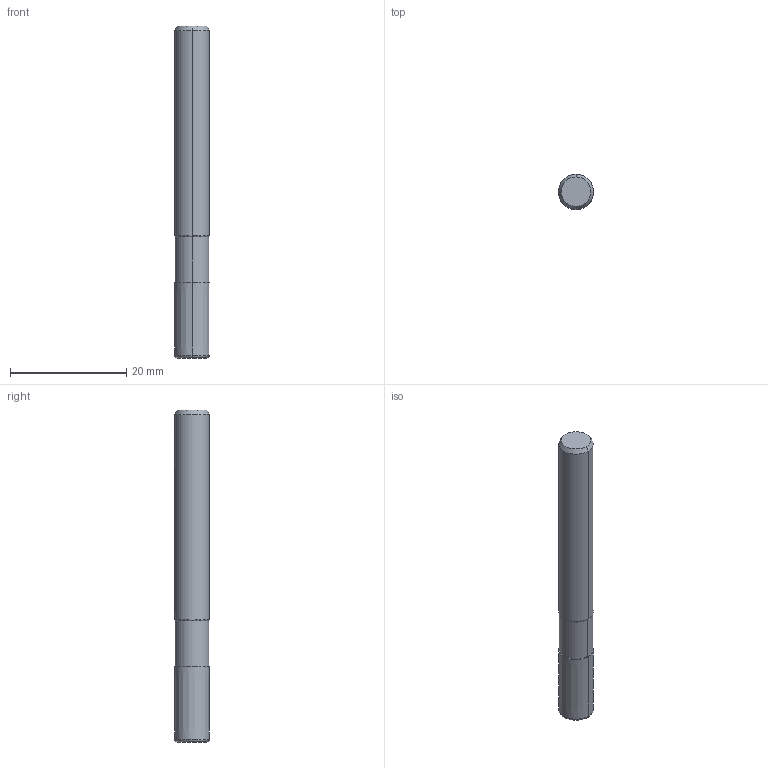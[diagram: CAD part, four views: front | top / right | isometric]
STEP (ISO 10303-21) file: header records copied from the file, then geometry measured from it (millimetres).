
FILE_DESCRIPTION(('no description'),'unknown implementation level');
FILE_NAME('solidR6dbxIw7ttNYzsIpkeRAW6LqzTw_1.STP',' ',('CIMSOURCE GmbH'),('CADClick - KiM GmbH - www.kimweb.de'),'unknown preprocess','ACIS','unknown authorization');
FILE_SCHEMA(('automotive_design'));
Length unit declared in the file: millimetre
Products named in the file (2): NOCUT; CUT
Bounding box: 6 x 6 x 57 mm (x, y, z)
Volume: 1592.5 mm3; surface area: 1411.1 mm2
Topology: 2 solids, 2 shells, 42 faces, 95 edges, 58 vertices
Faces by surface type: cylinder 16, cone 14, plane 10, torus 2
Entity records: 2528 total; most frequent: CARTESIAN_POINT 417, DIRECTION 217, STYLED_ITEM 197, PRESENTATION_STYLE_ASSIGNMENT 197, COLOUR_RGB 197, ORIENTED_EDGE 190, EDGE_CURVE 95, CURVE_STYLE 95
